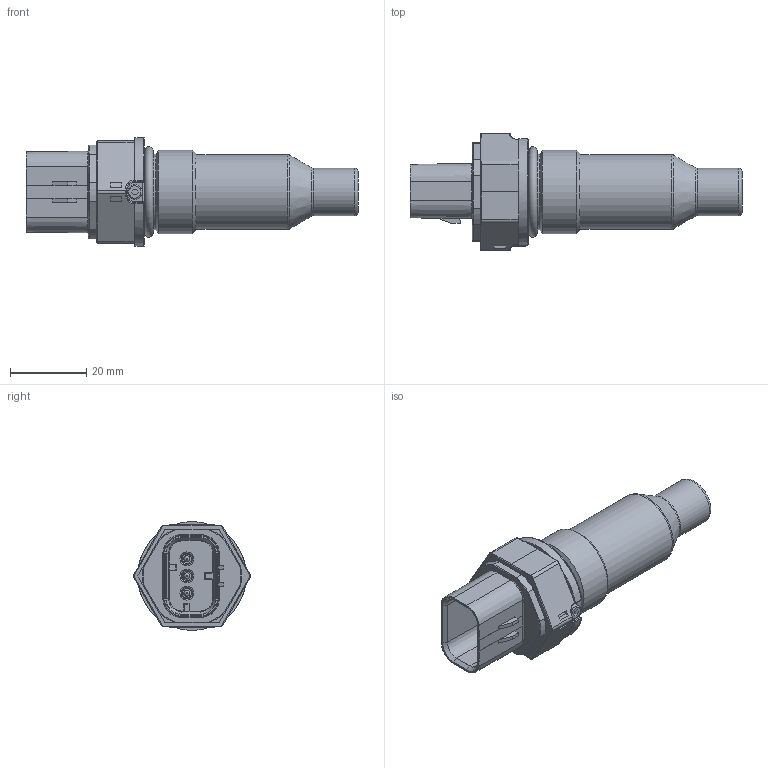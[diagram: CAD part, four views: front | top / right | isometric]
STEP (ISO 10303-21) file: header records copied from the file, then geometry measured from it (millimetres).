
FILE_DESCRIPTION( ( 'Unknown' ), '1' );
FILE_NAME( 'X:/SolidEdge/Models/Dokumentationen/Kapazitiv/CFAx 22/Vereinfachte Modelle/Neutralformate/CFAK 22U9500_AMP.stp', 'Unknown', ( 'Unknown' ), ( 'Unknown' ), 'PSStep 15.0.49', 'Unknown', ' ' );
FILE_SCHEMA( ( 'AUTOMOTIVE_DESIGN { 1 0 10303 214 1 1 1 1 }' ) );
Length unit declared in the file: millimetre
Products named in the file (1): 11116714
Bounding box: 87.05 x 30.69 x 28.5 mm (x, y, z)
Volume: 25131.8 mm3; surface area: 8343.4 mm2
Topology: 1 solids, 1 shells, 342 faces, 840 edges, 514 vertices
Faces by surface type: plane 143, cylinder 117, torus 45, cone 21, bspline 9, sphere 7
Full cylindrical faces by diameter (mm): 0.5 x1, 1.6 x3, 2.1 x1, 2.3 x1, 3 x3, 3.6 x1, 3.8 x1, 12.5 x1, 19.6 x1, 19.7 x1, 22 x2, 22.15 x1
Entity records: 13159 total; most frequent: CARTESIAN_POINT 2603, DIRECTION 1728, ORIENTED_EDGE 1564, EDGE_CURVE 782, AXIS2_PLACEMENT_3D 652, VERTEX_POINT 499, LINE 424, VECTOR 424
